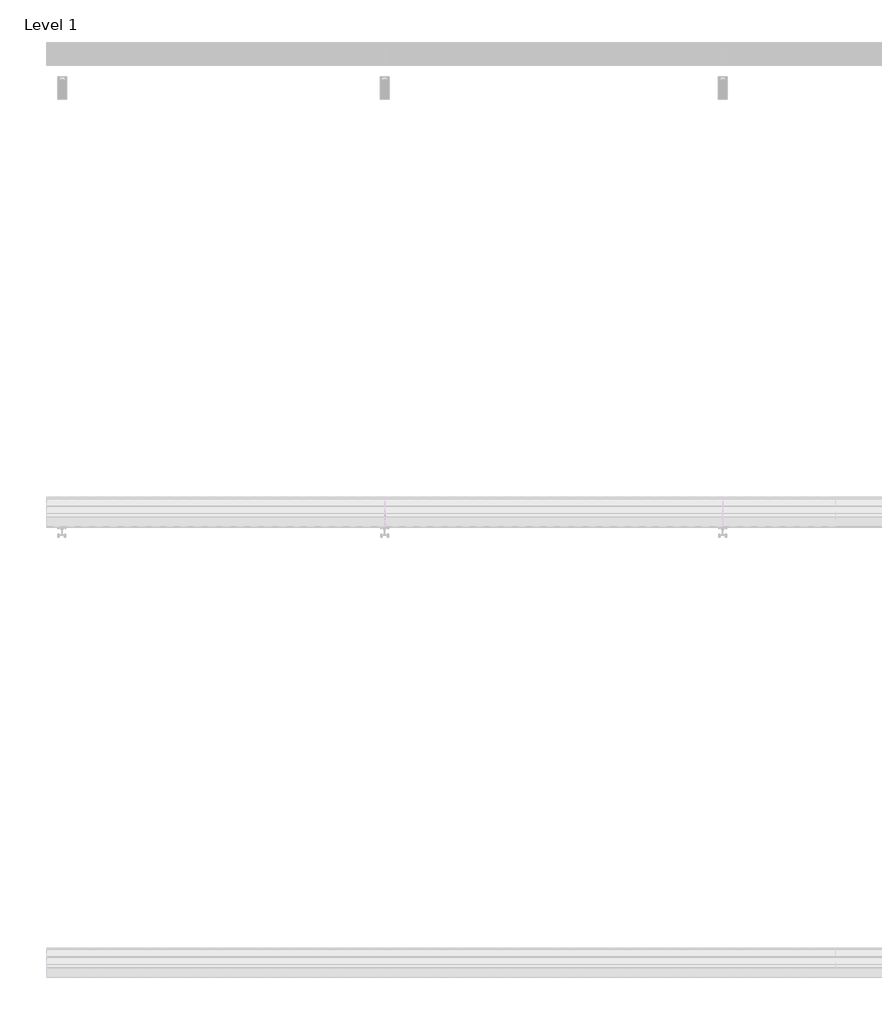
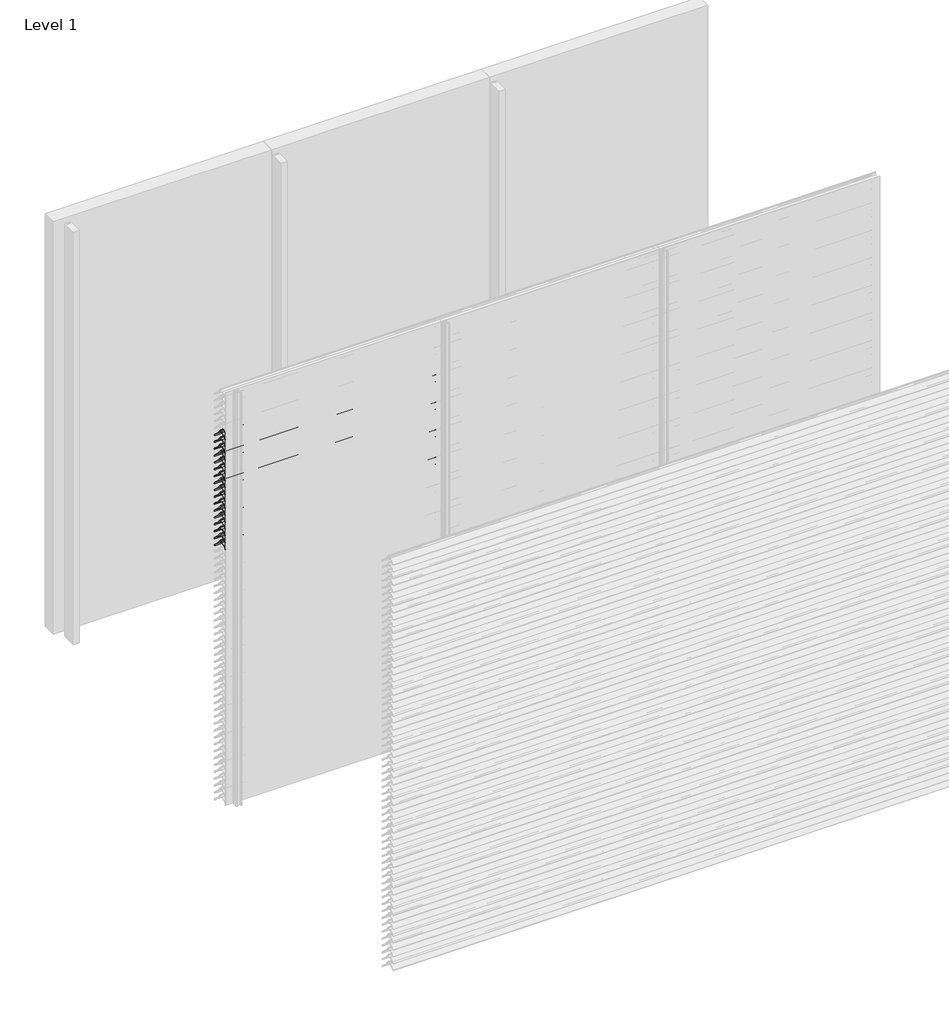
# One storey, part 41 of 173: 17 proxies.
"""IFC4 building model written with IfcOpenShell, lengths in millimetres."""

import ifcopenshell
import ifcopenshell.guid

model = None  # the IFC model being written
_history = None  # IfcOwnerHistory: only IFC2X3 demands one
_inside = {}  # id of a spatial element -> (the spatial element, [elements in it])
_under = {}  # id of a project, library or spatial element -> (it, [spatial elements below it])
_declared = {}  # id of a project -> (the project, [libraries it declares])
_typed = {}  # id of a type object -> (the type object, [elements of that type])
_made_of = {}  # id of a material, layer set ... -> (it, [elements and type objects made of it])


def new_model(schema):
    """Start an empty IFC model of exactly this schema.

    Asked for "IFC4X3", IfcOpenShell would pick the latest addendum, in which some entities
    have other attributes; the version numbers below select the first issue.
    IFC2X3 requires an IfcOwnerHistory on every rooted entity: one is made here for all.
    """
    global model, _history
    if schema == "IFC4X3":
        model = ifcopenshell.file(schema_version=(4, 3, 0, 0))
    else:
        model = ifcopenshell.file(schema=schema)
    _inside.clear()
    _under.clear()
    _declared.clear()
    _typed.clear()
    _made_of.clear()
    _history = None
    if model.schema == "IFC2X3":
        org = make("IfcOrganization", Name="unknown")
        user = make(
            "IfcPersonAndOrganization",
            ThePerson=make("IfcPerson", FamilyName="unknown"),
            TheOrganization=org,
        )
        app = make(
            "IfcApplication",
            ApplicationDeveloper=org,
            Version="unknown",
            ApplicationFullName="unknown",
            ApplicationIdentifier="unknown",
        )
        _history = make(
            "IfcOwnerHistory",
            OwningUser=user,
            OwningApplication=app,
            ChangeAction="ADDED",
            CreationDate=0,
        )
    return model


def make(cls, **values):
    """One entity of the class cls with the attributes given. An attribute that is None is left unset."""
    return model.create_entity(
        cls, **{name: value for name, value in values.items() if value is not None}
    )


def rooted(cls, **values):
    """An entity with a GlobalId (a new one), such as an element, a storey or a relation."""
    return make(cls, GlobalId=ifcopenshell.guid.new(), OwnerHistory=_history, **values)


def si_unit(unit_type, name, prefix=None):
    """IfcSIUnit, for example si_unit("LENGTHUNIT", "METRE", prefix="MILLI")."""
    return make("IfcSIUnit", UnitType=unit_type, Prefix=prefix, Name=name)


def assignment(units):
    """IfcUnitAssignment: the units of a project."""
    return None if units is None else make("IfcUnitAssignment", Units=units)


def point(xyz):
    """IfcCartesianPoint."""
    return None if xyz is None else make("IfcCartesianPoint", Coordinates=xyz)


def direction(xyz):
    """IfcDirection."""
    return None if xyz is None else make("IfcDirection", DirectionRatios=xyz)


def frame(location, z_axis=None, x_axis=None):
    """IfcAxis2Placement3D, a coordinate frame: its origin and axes. An axis left out is left unset."""
    return make(
        "IfcAxis2Placement3D",
        Location=point(location),
        Axis=direction(z_axis),
        RefDirection=direction(x_axis),
    )


def frame_2d(location, x_axis=None):
    """IfcAxis2Placement2D, a coordinate frame in the plane: its origin and x axis."""
    return make(
        "IfcAxis2Placement2D", Location=point(location), RefDirection=direction(x_axis)
    )


def origin():
    """The frame at (0, 0, 0) with its axes left unset."""
    return frame((0.0, 0.0, 0.0))


def place(relative_to, where):
    """IfcLocalPlacement: puts the frame where relative to a parent placement (None: the world)."""
    return make(
        "IfcLocalPlacement", PlacementRelTo=relative_to, RelativePlacement=where
    )


def context(
    kind, dimensions, precision=None, world=None, true_north=None, identifier=None
):
    """IfcGeometricRepresentationContext, for example the 3D "Model" context."""
    return make(
        "IfcGeometricRepresentationContext",
        ContextIdentifier=identifier,
        ContextType=kind,
        CoordinateSpaceDimension=dimensions,
        Precision=precision,
        WorldCoordinateSystem=world,
        TrueNorth=true_north,
    )


def project(units=None, contexts=None):
    """IfcProject with its units and contexts."""
    return rooted(
        "IfcProject",
        Name="project",
        RepresentationContexts=contexts,
        UnitsInContext=assignment(units),
    )


def spatial(cls, under=None, at=None, **own):
    """A site, building, storey or space (cls), placed at a placement, below another one or the project."""
    s = rooted(cls, ObjectPlacement=at, **own)
    if under is not None:
        _under.setdefault(under.id(), (under, []))[1].append(s)
    return s


def polyline(points):
    """IfcPolyline through the points."""
    return make("IfcPolyline", Points=[point(p) for p in points])


def circle_curve(where, radius):
    """IfcCircle in the frame where."""
    return make("IfcCircle", Position=where, Radius=radius)


def trimmed(basis, trim1, trim2, sense, master):
    """IfcTrimmedCurve: the piece of a basis curve between two trims."""
    return make(
        "IfcTrimmedCurve",
        BasisCurve=basis,
        Trim1=trim1,
        Trim2=trim2,
        SenseAgreement=sense,
        MasterRepresentation=master,
    )


def segment(curve, same_sense, transition):
    """IfcCompositeCurveSegment."""
    return make(
        "IfcCompositeCurveSegment",
        Transition=transition,
        SameSense=same_sense,
        ParentCurve=curve,
    )


def composite_curve(segments, self_intersect=None):
    """IfcCompositeCurve: segments joined end to end."""
    return make("IfcCompositeCurve", Segments=segments, SelfIntersect=self_intersect)


def outline(outer, holes=None, kind="AREA"):
    """IfcArbitraryClosedProfileDef: a profile drawn as a closed curve; with holes, ...WithVoids."""
    if holes is None:
        return make("IfcArbitraryClosedProfileDef", ProfileType=kind, OuterCurve=outer)
    return make(
        "IfcArbitraryProfileDefWithVoids",
        ProfileType=kind,
        OuterCurve=outer,
        InnerCurves=holes,
    )


def extrude(swept, where, along, depth):
    """IfcExtrudedAreaSolid: the profile swept, set in the frame where, extruded along a direction by depth."""
    return make(
        "IfcExtrudedAreaSolid",
        SweptArea=swept,
        Position=where,
        ExtrudedDirection=direction(along),
        Depth=depth,
    )


def shape(context_of_items, identifier, shape_type, items):
    """IfcShapeRepresentation: the items that make up one representation, for example the "Body"."""
    return make(
        "IfcShapeRepresentation",
        ContextOfItems=context_of_items,
        RepresentationIdentifier=identifier,
        RepresentationType=shape_type,
        Items=items,
    )


def made_of(thing, what):
    """Note that an element or type object is made of a material, layer set ...; save() writes the relation."""
    if what is not None:
        _made_of.setdefault(what.id(), (what, []))[1].append(thing)
    return thing


def element(
    cls,
    number,
    at=None,
    inside=None,
    cuts=None,
    type_object=None,
    material=None,
    context=None,
    identifier="Body",
    shape_type=None,
    held_by="IfcProductDefinitionShape",
    body=None,
    shapes=None,
    **own,
):
    """One element of the class cls, such as IfcWall. Its Tag is "e" and its number.

    at: its placement. inside: the storey or other place that contains it. cuts: it is an
    opening in that element (IfcRelVoidsElement). A single representation is given by context,
    identifier, shape_type and body (its items); several are given by shapes. held_by: the class
    of the entity that holds the representations. save() writes the other relations.
    """
    e = rooted(cls, Tag="e%d" % number, ObjectPlacement=at, **own)
    if body is not None:
        shapes = [shape(context, identifier, shape_type, body)]
    if shapes is not None:
        e.Representation = make(held_by, Representations=shapes)
    if inside is not None:
        _inside.setdefault(inside.id(), (inside, []))[1].append(e)
    if cuts is not None:
        rooted(
            "IfcRelVoidsElement", RelatingBuildingElement=cuts, RelatedOpeningElement=e
        )
    if type_object is not None:
        _typed.setdefault(type_object.id(), (type_object, []))[1].append(e)
    return made_of(e, material)


def aggregate(whole, parts):
    """IfcRelAggregates: a whole, such as a stair, and the parts it consists of."""
    return rooted("IfcRelAggregates", RelatingObject=whole, RelatedObjects=parts)


def save(model, path):
    """Write the relations noted so far, then the file.

    IfcRelAggregates (storeys below a building ...), IfcRelContainedInSpatialStructure (elements
    in a storey), IfcRelDefinesByType, IfcRelAssociatesMaterial and IfcRelDeclares: one each for
    every whole, place, type object, material and project.
    """
    for whole, parts in _under.values():
        aggregate(whole, parts)
    for where, things in _inside.values():
        rooted(
            "IfcRelContainedInSpatialStructure",
            RelatedElements=things,
            RelatingStructure=where,
        )
    for kind, things in _typed.values():
        rooted("IfcRelDefinesByType", RelatedObjects=things, RelatingType=kind)
    for what, things in _made_of.values():
        rooted("IfcRelAssociatesMaterial", RelatedObjects=things, RelatingMaterial=what)
    for by, libraries in _declared.values():
        rooted("IfcRelDeclares", RelatingContext=by, RelatedDefinitions=libraries)
    model.write(path)


model = new_model("IFC4")

# Units and contexts
model_context = context("Model", 3, world=origin())
ifc_project = project(units=[si_unit("LENGTHUNIT", "METRE", prefix="MILLI")], contexts=[model_context])

# Site, building, storey
site = spatial("IfcSite", under=ifc_project)
building = spatial("IfcBuilding", under=site)
storey = spatial("IfcBuildingStorey", under=building, Name="Level 1", Elevation=0.0)

# Proxies
placement = place(None, origin())
element("IfcBuildingElementProxy", 1, Name="Wall Sweeps", at=placement, inside=storey, context=model_context, shape_type="SweptSolid", body=[
    extrude(outline(composite_curve([segment(polyline([(-41998.0, 2659.1474905), (-41998.0, 2661.6227417)]), True, "CONTINUOUS"), segment(trimmed(circle_curve(frame_2d((-41951.2682172, 2616.2200208)), 65.1557103), [point((-41998.0, 2661.6227417))], [point((-41954.4014323, 2681.3003524))], False, "CARTESIAN"), True, "CONTINUOUS"), segment(polyline([(-41954.4014323, 2681.3003524), (-41934.8315836, 2681.3003524)]), True, "CONTINUOUS"), segment(trimmed(circle_curve(frame_2d((-41732.7329489, 2828.5533172)), 250.0545817), [point((-41934.8315836, 2681.3003524))], [point((-41941.4452143, 2690.8344583))], False, "CARTESIAN"), True, "CONTINUOUS"), segment(trimmed(circle_curve(frame_2d((-41953.2981792, 2685.1737835)), 13.1352966), [point((-41941.4452143, 2690.8344583))], [point((-41953.8171475, 2698.298824))], True, "CARTESIAN"), True, "CONTINUOUS"), segment(polyline([(-41953.8171475, 2698.298824), (-41953.8171475, 2700.0)]), True, "CONTINUOUS"), segment(trimmed(circle_curve(frame_2d((-41953.2981792, 2685.1737835)), 14.8352966), [point((-41953.8171475, 2700.0))], [point((-41939.9637661, 2691.6760487))], False, "CARTESIAN"), True, "CONTINUOUS"), segment(trimmed(circle_curve(frame_2d((-41732.7329489, 2828.5533172)), 248.3545817), [point((-41939.9637661, 2691.6760487))], [point((-41873.8787895, 2624.2059416))], True, "CARTESIAN"), True, "CONTINUOUS"), segment(trimmed(circle_curve(frame_2d((-41883.8147537, 2611.6649442)), 16.0), [point((-41873.8787895, 2624.2059416))], [point((-41867.8648347, 2610.4))], False, "CARTESIAN"), True, "CONTINUOUS"), segment(polyline([(-41867.8648347, 2610.4), (-41869.6712069, 2610.4)]), True, "CONTINUOUS"), segment(trimmed(circle_curve(frame_2d((-41883.8147537, 2611.6649442)), 14.2), [point((-41869.6712069, 2610.4))], [point((-41874.9518628, 2622.7594998))], True, "CARTESIAN"), True, "CONTINUOUS"), segment(trimmed(circle_curve(frame_2d((-41732.7329489, 2828.5533172)), 250.1545817), [point((-41874.9518628, 2622.7594998))], [point((-41933.7064024, 2679.6003524))], False, "CARTESIAN"), True, "CONTINUOUS"), segment(polyline([(-41933.7064024, 2679.6003524), (-41954.3602632, 2679.6003524)]), True, "CONTINUOUS"), segment(trimmed(circle_curve(frame_2d((-41951.2682172, 2616.2200208)), 63.4557103), [point((-41954.3602632, 2679.6003524))], [point((-41998.0, 2659.1474905))], True, "CARTESIAN"), True, "CONTINUOUS")], self_intersect=False)), frame((0.0, 0.0, 0.0), z_axis=(1.0, 0.0, 0.0), x_axis=(0.0, 1.0, 0.0)), (0.0, 0.0, 1.0), 1500.0),
])
element("IfcBuildingElementProxy", 2, Name="Wall Sweeps", at=placement, inside=storey, context=model_context, shape_type="SweptSolid", body=[
    extrude(outline(composite_curve([segment(polyline([(-41998.0, 2609.1474905), (-41998.0, 2611.6227417)]), True, "CONTINUOUS"), segment(trimmed(circle_curve(frame_2d((-41951.2682172, 2566.2200208)), 65.1557103), [point((-41998.0, 2611.6227417))], [point((-41954.4014323, 2631.3003524))], False, "CARTESIAN"), True, "CONTINUOUS"), segment(polyline([(-41954.4014323, 2631.3003524), (-41934.8315836, 2631.3003524)]), True, "CONTINUOUS"), segment(trimmed(circle_curve(frame_2d((-41732.7329489, 2778.5533172)), 250.0545817), [point((-41934.8315836, 2631.3003524))], [point((-41941.4452143, 2640.8344583))], False, "CARTESIAN"), True, "CONTINUOUS"), segment(trimmed(circle_curve(frame_2d((-41953.2981792, 2635.1737835)), 13.1352966), [point((-41941.4452143, 2640.8344583))], [point((-41953.8171475, 2648.298824))], True, "CARTESIAN"), True, "CONTINUOUS"), segment(polyline([(-41953.8171475, 2648.298824), (-41953.8171475, 2650.0)]), True, "CONTINUOUS"), segment(trimmed(circle_curve(frame_2d((-41953.2981792, 2635.1737835)), 14.8352966), [point((-41953.8171475, 2650.0))], [point((-41939.9637661, 2641.6760487))], False, "CARTESIAN"), True, "CONTINUOUS"), segment(trimmed(circle_curve(frame_2d((-41732.7329489, 2778.5533172)), 248.3545817), [point((-41939.9637661, 2641.6760487))], [point((-41873.8787895, 2574.2059416))], True, "CARTESIAN"), True, "CONTINUOUS"), segment(trimmed(circle_curve(frame_2d((-41883.8147537, 2561.6649442)), 16.0), [point((-41873.8787895, 2574.2059416))], [point((-41867.8648347, 2560.4))], False, "CARTESIAN"), True, "CONTINUOUS"), segment(polyline([(-41867.8648347, 2560.4), (-41869.6712069, 2560.4)]), True, "CONTINUOUS"), segment(trimmed(circle_curve(frame_2d((-41883.8147537, 2561.6649442)), 14.2), [point((-41869.6712069, 2560.4))], [point((-41874.9518628, 2572.7594998))], True, "CARTESIAN"), True, "CONTINUOUS"), segment(trimmed(circle_curve(frame_2d((-41732.7329489, 2778.5533172)), 250.1545817), [point((-41874.9518628, 2572.7594998))], [point((-41933.7064024, 2629.6003524))], False, "CARTESIAN"), True, "CONTINUOUS"), segment(polyline([(-41933.7064024, 2629.6003524), (-41954.3602632, 2629.6003524)]), True, "CONTINUOUS"), segment(trimmed(circle_curve(frame_2d((-41951.2682172, 2566.2200208)), 63.4557103), [point((-41954.3602632, 2629.6003524))], [point((-41998.0, 2609.1474905))], True, "CARTESIAN"), True, "CONTINUOUS")], self_intersect=False)), frame((0.0, 0.0, 0.0), z_axis=(1.0, 0.0, 0.0), x_axis=(0.0, 1.0, 0.0)), (0.0, 0.0, 1.0), 1500.0),
])
element("IfcBuildingElementProxy", 3, Name="Wall Sweeps", at=placement, inside=storey, context=model_context, shape_type="SweptSolid", body=[
    extrude(outline(composite_curve([segment(polyline([(-41998.0, 2559.1474905), (-41998.0, 2561.6227417)]), True, "CONTINUOUS"), segment(trimmed(circle_curve(frame_2d((-41951.2682172, 2516.2200208)), 65.1557103), [point((-41998.0, 2561.6227417))], [point((-41954.4014323, 2581.3003524))], False, "CARTESIAN"), True, "CONTINUOUS"), segment(polyline([(-41954.4014323, 2581.3003524), (-41934.8315836, 2581.3003524)]), True, "CONTINUOUS"), segment(trimmed(circle_curve(frame_2d((-41732.7329489, 2728.5533172)), 250.0545817), [point((-41934.8315836, 2581.3003524))], [point((-41941.4452143, 2590.8344583))], False, "CARTESIAN"), True, "CONTINUOUS"), segment(trimmed(circle_curve(frame_2d((-41953.2981792, 2585.1737835)), 13.1352966), [point((-41941.4452143, 2590.8344583))], [point((-41953.8171475, 2598.298824))], True, "CARTESIAN"), True, "CONTINUOUS"), segment(polyline([(-41953.8171475, 2598.298824), (-41953.8171475, 2600.0)]), True, "CONTINUOUS"), segment(trimmed(circle_curve(frame_2d((-41953.2981792, 2585.1737835)), 14.8352966), [point((-41953.8171475, 2600.0))], [point((-41939.9637661, 2591.6760487))], False, "CARTESIAN"), True, "CONTINUOUS"), segment(trimmed(circle_curve(frame_2d((-41732.7329489, 2728.5533172)), 248.3545817), [point((-41939.9637661, 2591.6760487))], [point((-41873.8787895, 2524.2059416))], True, "CARTESIAN"), True, "CONTINUOUS"), segment(trimmed(circle_curve(frame_2d((-41883.8147537, 2511.6649442)), 16.0), [point((-41873.8787895, 2524.2059416))], [point((-41867.8648347, 2510.4))], False, "CARTESIAN"), True, "CONTINUOUS"), segment(polyline([(-41867.8648347, 2510.4), (-41869.6712069, 2510.4)]), True, "CONTINUOUS"), segment(trimmed(circle_curve(frame_2d((-41883.8147537, 2511.6649442)), 14.2), [point((-41869.6712069, 2510.4))], [point((-41874.9518628, 2522.7594998))], True, "CARTESIAN"), True, "CONTINUOUS"), segment(trimmed(circle_curve(frame_2d((-41732.7329489, 2728.5533172)), 250.1545817), [point((-41874.9518628, 2522.7594998))], [point((-41933.7064024, 2579.6003524))], False, "CARTESIAN"), True, "CONTINUOUS"), segment(polyline([(-41933.7064024, 2579.6003524), (-41954.3602632, 2579.6003524)]), True, "CONTINUOUS"), segment(trimmed(circle_curve(frame_2d((-41951.2682172, 2516.2200208)), 63.4557103), [point((-41954.3602632, 2579.6003524))], [point((-41998.0, 2559.1474905))], True, "CARTESIAN"), True, "CONTINUOUS")], self_intersect=False)), frame((0.0, 0.0, 0.0), z_axis=(1.0, 0.0, 0.0), x_axis=(0.0, 1.0, 0.0)), (0.0, 0.0, 1.0), 1500.0),
])
element("IfcBuildingElementProxy", 4, Name="Wall Sweeps", at=placement, inside=storey, context=model_context, shape_type="SweptSolid", body=[
    extrude(outline(composite_curve([segment(polyline([(-41998.0, 2509.1474905), (-41998.0, 2511.6227417)]), True, "CONTINUOUS"), segment(trimmed(circle_curve(frame_2d((-41951.2682172, 2466.2200208)), 65.1557103), [point((-41998.0, 2511.6227417))], [point((-41954.4014323, 2531.3003524))], False, "CARTESIAN"), True, "CONTINUOUS"), segment(polyline([(-41954.4014323, 2531.3003524), (-41934.8315836, 2531.3003524)]), True, "CONTINUOUS"), segment(trimmed(circle_curve(frame_2d((-41732.7329489, 2678.5533172)), 250.0545817), [point((-41934.8315836, 2531.3003524))], [point((-41941.4452143, 2540.8344583))], False, "CARTESIAN"), True, "CONTINUOUS"), segment(trimmed(circle_curve(frame_2d((-41953.2981792, 2535.1737835)), 13.1352966), [point((-41941.4452143, 2540.8344583))], [point((-41953.8171475, 2548.298824))], True, "CARTESIAN"), True, "CONTINUOUS"), segment(polyline([(-41953.8171475, 2548.298824), (-41953.8171475, 2550.0)]), True, "CONTINUOUS"), segment(trimmed(circle_curve(frame_2d((-41953.2981792, 2535.1737835)), 14.8352966), [point((-41953.8171475, 2550.0))], [point((-41939.9637661, 2541.6760487))], False, "CARTESIAN"), True, "CONTINUOUS"), segment(trimmed(circle_curve(frame_2d((-41732.7329489, 2678.5533172)), 248.3545817), [point((-41939.9637661, 2541.6760487))], [point((-41873.8787895, 2474.2059416))], True, "CARTESIAN"), True, "CONTINUOUS"), segment(trimmed(circle_curve(frame_2d((-41883.8147537, 2461.6649442)), 16.0), [point((-41873.8787895, 2474.2059416))], [point((-41867.8648347, 2460.4))], False, "CARTESIAN"), True, "CONTINUOUS"), segment(polyline([(-41867.8648347, 2460.4), (-41869.6712069, 2460.4)]), True, "CONTINUOUS"), segment(trimmed(circle_curve(frame_2d((-41883.8147537, 2461.6649442)), 14.2), [point((-41869.6712069, 2460.4))], [point((-41874.9518628, 2472.7594998))], True, "CARTESIAN"), True, "CONTINUOUS"), segment(trimmed(circle_curve(frame_2d((-41732.7329489, 2678.5533172)), 250.1545817), [point((-41874.9518628, 2472.7594998))], [point((-41933.7064024, 2529.6003524))], False, "CARTESIAN"), True, "CONTINUOUS"), segment(polyline([(-41933.7064024, 2529.6003524), (-41954.3602632, 2529.6003524)]), True, "CONTINUOUS"), segment(trimmed(circle_curve(frame_2d((-41951.2682172, 2466.2200208)), 63.4557103), [point((-41954.3602632, 2529.6003524))], [point((-41998.0, 2509.1474905))], True, "CARTESIAN"), True, "CONTINUOUS")], self_intersect=False)), frame((0.0, 0.0, 0.0), z_axis=(1.0, 0.0, 0.0), x_axis=(0.0, 1.0, 0.0)), (0.0, 0.0, 1.0), 1500.0),
])
element("IfcBuildingElementProxy", 5, Name="Wall Sweeps", at=placement, inside=storey, context=model_context, shape_type="SweptSolid", body=[
    extrude(outline(composite_curve([segment(polyline([(-41998.0, 2459.1474905), (-41998.0, 2461.6227417)]), True, "CONTINUOUS"), segment(trimmed(circle_curve(frame_2d((-41951.2682172, 2416.2200208)), 65.1557103), [point((-41998.0, 2461.6227417))], [point((-41954.4014323, 2481.3003524))], False, "CARTESIAN"), True, "CONTINUOUS"), segment(polyline([(-41954.4014323, 2481.3003524), (-41934.8315836, 2481.3003524)]), True, "CONTINUOUS"), segment(trimmed(circle_curve(frame_2d((-41732.7329489, 2628.5533172)), 250.0545817), [point((-41934.8315836, 2481.3003524))], [point((-41941.4452143, 2490.8344583))], False, "CARTESIAN"), True, "CONTINUOUS"), segment(trimmed(circle_curve(frame_2d((-41953.2981792, 2485.1737835)), 13.1352966), [point((-41941.4452143, 2490.8344583))], [point((-41953.8171475, 2498.298824))], True, "CARTESIAN"), True, "CONTINUOUS"), segment(polyline([(-41953.8171475, 2498.298824), (-41953.8171475, 2500.0)]), True, "CONTINUOUS"), segment(trimmed(circle_curve(frame_2d((-41953.2981792, 2485.1737835)), 14.8352966), [point((-41953.8171475, 2500.0))], [point((-41939.9637661, 2491.6760487))], False, "CARTESIAN"), True, "CONTINUOUS"), segment(trimmed(circle_curve(frame_2d((-41732.7329489, 2628.5533172)), 248.3545817), [point((-41939.9637661, 2491.6760487))], [point((-41873.8787895, 2424.2059416))], True, "CARTESIAN"), True, "CONTINUOUS"), segment(trimmed(circle_curve(frame_2d((-41883.8147537, 2411.6649442)), 16.0), [point((-41873.8787895, 2424.2059416))], [point((-41867.8648347, 2410.4))], False, "CARTESIAN"), True, "CONTINUOUS"), segment(polyline([(-41867.8648347, 2410.4), (-41869.6712069, 2410.4)]), True, "CONTINUOUS"), segment(trimmed(circle_curve(frame_2d((-41883.8147537, 2411.6649442)), 14.2), [point((-41869.6712069, 2410.4))], [point((-41874.9518628, 2422.7594998))], True, "CARTESIAN"), True, "CONTINUOUS"), segment(trimmed(circle_curve(frame_2d((-41732.7329489, 2628.5533172)), 250.1545817), [point((-41874.9518628, 2422.7594998))], [point((-41933.7064024, 2479.6003524))], False, "CARTESIAN"), True, "CONTINUOUS"), segment(polyline([(-41933.7064024, 2479.6003524), (-41954.3602632, 2479.6003524)]), True, "CONTINUOUS"), segment(trimmed(circle_curve(frame_2d((-41951.2682172, 2416.2200208)), 63.4557103), [point((-41954.3602632, 2479.6003524))], [point((-41998.0, 2459.1474905))], True, "CARTESIAN"), True, "CONTINUOUS")], self_intersect=False)), frame((0.0, 0.0, 0.0), z_axis=(1.0, 0.0, 0.0), x_axis=(0.0, 1.0, 0.0)), (0.0, 0.0, 1.0), 1500.0),
])
element("IfcBuildingElementProxy", 6, Name="Wall Sweeps", at=placement, inside=storey, context=model_context, shape_type="SweptSolid", body=[
    extrude(outline(composite_curve([segment(polyline([(-41998.0, 2409.1474905), (-41998.0, 2411.6227417)]), True, "CONTINUOUS"), segment(trimmed(circle_curve(frame_2d((-41951.2682172, 2366.2200208)), 65.1557103), [point((-41998.0, 2411.6227417))], [point((-41954.4014323, 2431.3003524))], False, "CARTESIAN"), True, "CONTINUOUS"), segment(polyline([(-41954.4014323, 2431.3003524), (-41934.8315836, 2431.3003524)]), True, "CONTINUOUS"), segment(trimmed(circle_curve(frame_2d((-41732.7329489, 2578.5533172)), 250.0545817), [point((-41934.8315836, 2431.3003524))], [point((-41941.4452143, 2440.8344583))], False, "CARTESIAN"), True, "CONTINUOUS"), segment(trimmed(circle_curve(frame_2d((-41953.2981792, 2435.1737835)), 13.1352966), [point((-41941.4452143, 2440.8344583))], [point((-41953.8171475, 2448.298824))], True, "CARTESIAN"), True, "CONTINUOUS"), segment(polyline([(-41953.8171475, 2448.298824), (-41953.8171475, 2450.0)]), True, "CONTINUOUS"), segment(trimmed(circle_curve(frame_2d((-41953.2981792, 2435.1737835)), 14.8352966), [point((-41953.8171475, 2450.0))], [point((-41939.9637661, 2441.6760487))], False, "CARTESIAN"), True, "CONTINUOUS"), segment(trimmed(circle_curve(frame_2d((-41732.7329489, 2578.5533172)), 248.3545817), [point((-41939.9637661, 2441.6760487))], [point((-41873.8787895, 2374.2059416))], True, "CARTESIAN"), True, "CONTINUOUS"), segment(trimmed(circle_curve(frame_2d((-41883.8147537, 2361.6649442)), 16.0), [point((-41873.8787895, 2374.2059416))], [point((-41867.8648347, 2360.4))], False, "CARTESIAN"), True, "CONTINUOUS"), segment(polyline([(-41867.8648347, 2360.4), (-41869.6712069, 2360.4)]), True, "CONTINUOUS"), segment(trimmed(circle_curve(frame_2d((-41883.8147537, 2361.6649442)), 14.2), [point((-41869.6712069, 2360.4))], [point((-41874.9518628, 2372.7594998))], True, "CARTESIAN"), True, "CONTINUOUS"), segment(trimmed(circle_curve(frame_2d((-41732.7329489, 2578.5533172)), 250.1545817), [point((-41874.9518628, 2372.7594998))], [point((-41933.7064024, 2429.6003524))], False, "CARTESIAN"), True, "CONTINUOUS"), segment(polyline([(-41933.7064024, 2429.6003524), (-41954.3602632, 2429.6003524)]), True, "CONTINUOUS"), segment(trimmed(circle_curve(frame_2d((-41951.2682172, 2366.2200208)), 63.4557103), [point((-41954.3602632, 2429.6003524))], [point((-41998.0, 2409.1474905))], True, "CARTESIAN"), True, "CONTINUOUS")], self_intersect=False)), frame((0.0, 0.0, 0.0), z_axis=(1.0, 0.0, 0.0), x_axis=(0.0, 1.0, 0.0)), (0.0, 0.0, 1.0), 1500.0),
])
element("IfcBuildingElementProxy", 7, Name="Wall Sweeps", at=placement, inside=storey, context=model_context, shape_type="SweptSolid", body=[
    extrude(outline(composite_curve([segment(polyline([(-41998.0, 2359.1474905), (-41998.0, 2361.6227417)]), True, "CONTINUOUS"), segment(trimmed(circle_curve(frame_2d((-41951.2682172, 2316.2200208)), 65.1557103), [point((-41998.0, 2361.6227417))], [point((-41954.4014323, 2381.3003524))], False, "CARTESIAN"), True, "CONTINUOUS"), segment(polyline([(-41954.4014323, 2381.3003524), (-41934.8315836, 2381.3003524)]), True, "CONTINUOUS"), segment(trimmed(circle_curve(frame_2d((-41732.7329489, 2528.5533172)), 250.0545817), [point((-41934.8315836, 2381.3003524))], [point((-41941.4452143, 2390.8344583))], False, "CARTESIAN"), True, "CONTINUOUS"), segment(trimmed(circle_curve(frame_2d((-41953.2981792, 2385.1737835)), 13.1352966), [point((-41941.4452143, 2390.8344583))], [point((-41953.8171475, 2398.298824))], True, "CARTESIAN"), True, "CONTINUOUS"), segment(polyline([(-41953.8171475, 2398.298824), (-41953.8171475, 2400.0)]), True, "CONTINUOUS"), segment(trimmed(circle_curve(frame_2d((-41953.2981792, 2385.1737835)), 14.8352966), [point((-41953.8171475, 2400.0))], [point((-41939.9637661, 2391.6760487))], False, "CARTESIAN"), True, "CONTINUOUS"), segment(trimmed(circle_curve(frame_2d((-41732.7329489, 2528.5533172)), 248.3545817), [point((-41939.9637661, 2391.6760487))], [point((-41873.8787895, 2324.2059416))], True, "CARTESIAN"), True, "CONTINUOUS"), segment(trimmed(circle_curve(frame_2d((-41883.8147537, 2311.6649442)), 16.0), [point((-41873.8787895, 2324.2059416))], [point((-41867.8648347, 2310.4))], False, "CARTESIAN"), True, "CONTINUOUS"), segment(polyline([(-41867.8648347, 2310.4), (-41869.6712069, 2310.4)]), True, "CONTINUOUS"), segment(trimmed(circle_curve(frame_2d((-41883.8147537, 2311.6649442)), 14.2), [point((-41869.6712069, 2310.4))], [point((-41874.9518628, 2322.7594998))], True, "CARTESIAN"), True, "CONTINUOUS"), segment(trimmed(circle_curve(frame_2d((-41732.7329489, 2528.5533172)), 250.1545817), [point((-41874.9518628, 2322.7594998))], [point((-41933.7064024, 2379.6003524))], False, "CARTESIAN"), True, "CONTINUOUS"), segment(polyline([(-41933.7064024, 2379.6003524), (-41954.3602632, 2379.6003524)]), True, "CONTINUOUS"), segment(trimmed(circle_curve(frame_2d((-41951.2682172, 2316.2200208)), 63.4557103), [point((-41954.3602632, 2379.6003524))], [point((-41998.0, 2359.1474905))], True, "CARTESIAN"), True, "CONTINUOUS")], self_intersect=False)), frame((0.0, 0.0, 0.0), z_axis=(1.0, 0.0, 0.0), x_axis=(0.0, 1.0, 0.0)), (0.0, 0.0, 1.0), 1500.0),
])
element("IfcBuildingElementProxy", 8, Name="Wall Sweeps", at=placement, inside=storey, context=model_context, shape_type="SweptSolid", body=[
    extrude(outline(composite_curve([segment(polyline([(-41998.0, 2309.1474905), (-41998.0, 2311.6227417)]), True, "CONTINUOUS"), segment(trimmed(circle_curve(frame_2d((-41951.2682172, 2266.2200208)), 65.1557103), [point((-41998.0, 2311.6227417))], [point((-41954.4014323, 2331.3003524))], False, "CARTESIAN"), True, "CONTINUOUS"), segment(polyline([(-41954.4014323, 2331.3003524), (-41934.8315836, 2331.3003524)]), True, "CONTINUOUS"), segment(trimmed(circle_curve(frame_2d((-41732.7329489, 2478.5533172)), 250.0545817), [point((-41934.8315836, 2331.3003524))], [point((-41941.4452143, 2340.8344583))], False, "CARTESIAN"), True, "CONTINUOUS"), segment(trimmed(circle_curve(frame_2d((-41953.2981792, 2335.1737835)), 13.1352966), [point((-41941.4452143, 2340.8344583))], [point((-41953.8171475, 2348.298824))], True, "CARTESIAN"), True, "CONTINUOUS"), segment(polyline([(-41953.8171475, 2348.298824), (-41953.8171475, 2350.0)]), True, "CONTINUOUS"), segment(trimmed(circle_curve(frame_2d((-41953.2981792, 2335.1737835)), 14.8352966), [point((-41953.8171475, 2350.0))], [point((-41939.9637661, 2341.6760487))], False, "CARTESIAN"), True, "CONTINUOUS"), segment(trimmed(circle_curve(frame_2d((-41732.7329489, 2478.5533172)), 248.3545817), [point((-41939.9637661, 2341.6760487))], [point((-41873.8787895, 2274.2059416))], True, "CARTESIAN"), True, "CONTINUOUS"), segment(trimmed(circle_curve(frame_2d((-41883.8147537, 2261.6649442)), 16.0), [point((-41873.8787895, 2274.2059416))], [point((-41867.8648347, 2260.4))], False, "CARTESIAN"), True, "CONTINUOUS"), segment(polyline([(-41867.8648347, 2260.4), (-41869.6712069, 2260.4)]), True, "CONTINUOUS"), segment(trimmed(circle_curve(frame_2d((-41883.8147537, 2261.6649442)), 14.2), [point((-41869.6712069, 2260.4))], [point((-41874.9518628, 2272.7594998))], True, "CARTESIAN"), True, "CONTINUOUS"), segment(trimmed(circle_curve(frame_2d((-41732.7329489, 2478.5533172)), 250.1545817), [point((-41874.9518628, 2272.7594998))], [point((-41933.7064024, 2329.6003524))], False, "CARTESIAN"), True, "CONTINUOUS"), segment(polyline([(-41933.7064024, 2329.6003524), (-41954.3602632, 2329.6003524)]), True, "CONTINUOUS"), segment(trimmed(circle_curve(frame_2d((-41951.2682172, 2266.2200208)), 63.4557103), [point((-41954.3602632, 2329.6003524))], [point((-41998.0, 2309.1474905))], True, "CARTESIAN"), True, "CONTINUOUS")], self_intersect=False)), frame((0.0, 0.0, 0.0), z_axis=(1.0, 0.0, 0.0), x_axis=(0.0, 1.0, 0.0)), (0.0, 0.0, 1.0), 1500.0),
])
element("IfcBuildingElementProxy", 9, Name="Wall Sweeps", at=placement, inside=storey, context=model_context, shape_type="SweptSolid", body=[
    extrude(outline(composite_curve([segment(polyline([(-41998.0, 2259.1474905), (-41998.0, 2261.6227417)]), True, "CONTINUOUS"), segment(trimmed(circle_curve(frame_2d((-41951.2682172, 2216.2200208)), 65.1557103), [point((-41998.0, 2261.6227417))], [point((-41954.4014323, 2281.3003524))], False, "CARTESIAN"), True, "CONTINUOUS"), segment(polyline([(-41954.4014323, 2281.3003524), (-41934.8315836, 2281.3003524)]), True, "CONTINUOUS"), segment(trimmed(circle_curve(frame_2d((-41732.7329489, 2428.5533172)), 250.0545817), [point((-41934.8315836, 2281.3003524))], [point((-41941.4452143, 2290.8344583))], False, "CARTESIAN"), True, "CONTINUOUS"), segment(trimmed(circle_curve(frame_2d((-41953.2981792, 2285.1737835)), 13.1352966), [point((-41941.4452143, 2290.8344583))], [point((-41953.8171475, 2298.298824))], True, "CARTESIAN"), True, "CONTINUOUS"), segment(polyline([(-41953.8171475, 2298.298824), (-41953.8171475, 2300.0)]), True, "CONTINUOUS"), segment(trimmed(circle_curve(frame_2d((-41953.2981792, 2285.1737835)), 14.8352966), [point((-41953.8171475, 2300.0))], [point((-41939.9637661, 2291.6760487))], False, "CARTESIAN"), True, "CONTINUOUS"), segment(trimmed(circle_curve(frame_2d((-41732.7329489, 2428.5533172)), 248.3545817), [point((-41939.9637661, 2291.6760487))], [point((-41873.8787895, 2224.2059416))], True, "CARTESIAN"), True, "CONTINUOUS"), segment(trimmed(circle_curve(frame_2d((-41883.8147537, 2211.6649442)), 16.0), [point((-41873.8787895, 2224.2059416))], [point((-41867.8648347, 2210.4))], False, "CARTESIAN"), True, "CONTINUOUS"), segment(polyline([(-41867.8648347, 2210.4), (-41869.6712069, 2210.4)]), True, "CONTINUOUS"), segment(trimmed(circle_curve(frame_2d((-41883.8147537, 2211.6649442)), 14.2), [point((-41869.6712069, 2210.4))], [point((-41874.9518628, 2222.7594998))], True, "CARTESIAN"), True, "CONTINUOUS"), segment(trimmed(circle_curve(frame_2d((-41732.7329489, 2428.5533172)), 250.1545817), [point((-41874.9518628, 2222.7594998))], [point((-41933.7064024, 2279.6003524))], False, "CARTESIAN"), True, "CONTINUOUS"), segment(polyline([(-41933.7064024, 2279.6003524), (-41954.3602632, 2279.6003524)]), True, "CONTINUOUS"), segment(trimmed(circle_curve(frame_2d((-41951.2682172, 2216.2200208)), 63.4557103), [point((-41954.3602632, 2279.6003524))], [point((-41998.0, 2259.1474905))], True, "CARTESIAN"), True, "CONTINUOUS")], self_intersect=False)), frame((0.0, 0.0, 0.0), z_axis=(1.0, 0.0, 0.0), x_axis=(0.0, 1.0, 0.0)), (0.0, 0.0, 1.0), 1500.0),
])
element("IfcBuildingElementProxy", 10, Name="Wall Sweeps", at=placement, inside=storey, context=model_context, shape_type="SweptSolid", body=[
    extrude(outline(composite_curve([segment(polyline([(-41998.0, 2209.1474905), (-41998.0, 2211.6227417)]), True, "CONTINUOUS"), segment(trimmed(circle_curve(frame_2d((-41951.2682172, 2166.2200208)), 65.1557103), [point((-41998.0, 2211.6227417))], [point((-41954.4014323, 2231.3003524))], False, "CARTESIAN"), True, "CONTINUOUS"), segment(polyline([(-41954.4014323, 2231.3003524), (-41934.8315836, 2231.3003524)]), True, "CONTINUOUS"), segment(trimmed(circle_curve(frame_2d((-41732.7329489, 2378.5533172)), 250.0545817), [point((-41934.8315836, 2231.3003524))], [point((-41941.4452143, 2240.8344583))], False, "CARTESIAN"), True, "CONTINUOUS"), segment(trimmed(circle_curve(frame_2d((-41953.2981792, 2235.1737835)), 13.1352966), [point((-41941.4452143, 2240.8344583))], [point((-41953.8171475, 2248.298824))], True, "CARTESIAN"), True, "CONTINUOUS"), segment(polyline([(-41953.8171475, 2248.298824), (-41953.8171475, 2250.0)]), True, "CONTINUOUS"), segment(trimmed(circle_curve(frame_2d((-41953.2981792, 2235.1737835)), 14.8352966), [point((-41953.8171475, 2250.0))], [point((-41939.9637661, 2241.6760487))], False, "CARTESIAN"), True, "CONTINUOUS"), segment(trimmed(circle_curve(frame_2d((-41732.7329489, 2378.5533172)), 248.3545817), [point((-41939.9637661, 2241.6760487))], [point((-41873.8787895, 2174.2059416))], True, "CARTESIAN"), True, "CONTINUOUS"), segment(trimmed(circle_curve(frame_2d((-41883.8147537, 2161.6649442)), 16.0), [point((-41873.8787895, 2174.2059416))], [point((-41867.8648347, 2160.4))], False, "CARTESIAN"), True, "CONTINUOUS"), segment(polyline([(-41867.8648347, 2160.4), (-41869.6712069, 2160.4)]), True, "CONTINUOUS"), segment(trimmed(circle_curve(frame_2d((-41883.8147537, 2161.6649442)), 14.2), [point((-41869.6712069, 2160.4))], [point((-41874.9518628, 2172.7594998))], True, "CARTESIAN"), True, "CONTINUOUS"), segment(trimmed(circle_curve(frame_2d((-41732.7329489, 2378.5533172)), 250.1545817), [point((-41874.9518628, 2172.7594998))], [point((-41933.7064024, 2229.6003524))], False, "CARTESIAN"), True, "CONTINUOUS"), segment(polyline([(-41933.7064024, 2229.6003524), (-41954.3602632, 2229.6003524)]), True, "CONTINUOUS"), segment(trimmed(circle_curve(frame_2d((-41951.2682172, 2166.2200208)), 63.4557103), [point((-41954.3602632, 2229.6003524))], [point((-41998.0, 2209.1474905))], True, "CARTESIAN"), True, "CONTINUOUS")], self_intersect=False)), frame((0.0, 0.0, 0.0), z_axis=(1.0, 0.0, 0.0), x_axis=(0.0, 1.0, 0.0)), (0.0, 0.0, 1.0), 1500.0),
])
element("IfcBuildingElementProxy", 11, Name="Wall Sweeps", at=placement, inside=storey, context=model_context, shape_type="SweptSolid", body=[
    extrude(outline(composite_curve([segment(polyline([(-41998.0, 2159.1474905), (-41998.0, 2161.6227417)]), True, "CONTINUOUS"), segment(trimmed(circle_curve(frame_2d((-41951.2682172, 2116.2200208)), 65.1557103), [point((-41998.0, 2161.6227417))], [point((-41954.4014323, 2181.3003524))], False, "CARTESIAN"), True, "CONTINUOUS"), segment(polyline([(-41954.4014323, 2181.3003524), (-41934.8315836, 2181.3003524)]), True, "CONTINUOUS"), segment(trimmed(circle_curve(frame_2d((-41732.7329489, 2328.5533172)), 250.0545817), [point((-41934.8315836, 2181.3003524))], [point((-41941.4452143, 2190.8344583))], False, "CARTESIAN"), True, "CONTINUOUS"), segment(trimmed(circle_curve(frame_2d((-41953.2981792, 2185.1737835)), 13.1352966), [point((-41941.4452143, 2190.8344583))], [point((-41953.8171475, 2198.298824))], True, "CARTESIAN"), True, "CONTINUOUS"), segment(polyline([(-41953.8171475, 2198.298824), (-41953.8171475, 2200.0)]), True, "CONTINUOUS"), segment(trimmed(circle_curve(frame_2d((-41953.2981792, 2185.1737835)), 14.8352966), [point((-41953.8171475, 2200.0))], [point((-41939.9637661, 2191.6760487))], False, "CARTESIAN"), True, "CONTINUOUS"), segment(trimmed(circle_curve(frame_2d((-41732.7329489, 2328.5533172)), 248.3545817), [point((-41939.9637661, 2191.6760487))], [point((-41873.8787895, 2124.2059416))], True, "CARTESIAN"), True, "CONTINUOUS"), segment(trimmed(circle_curve(frame_2d((-41883.8147537, 2111.6649442)), 16.0), [point((-41873.8787895, 2124.2059416))], [point((-41867.8648347, 2110.4))], False, "CARTESIAN"), True, "CONTINUOUS"), segment(polyline([(-41867.8648347, 2110.4), (-41869.6712069, 2110.4)]), True, "CONTINUOUS"), segment(trimmed(circle_curve(frame_2d((-41883.8147537, 2111.6649442)), 14.2), [point((-41869.6712069, 2110.4))], [point((-41874.9518628, 2122.7594998))], True, "CARTESIAN"), True, "CONTINUOUS"), segment(trimmed(circle_curve(frame_2d((-41732.7329489, 2328.5533172)), 250.1545817), [point((-41874.9518628, 2122.7594998))], [point((-41933.7064024, 2179.6003524))], False, "CARTESIAN"), True, "CONTINUOUS"), segment(polyline([(-41933.7064024, 2179.6003524), (-41954.3602632, 2179.6003524)]), True, "CONTINUOUS"), segment(trimmed(circle_curve(frame_2d((-41951.2682172, 2116.2200208)), 63.4557103), [point((-41954.3602632, 2179.6003524))], [point((-41998.0, 2159.1474905))], True, "CARTESIAN"), True, "CONTINUOUS")], self_intersect=False)), frame((0.0, 0.0, 0.0), z_axis=(1.0, 0.0, 0.0), x_axis=(0.0, 1.0, 0.0)), (0.0, 0.0, 1.0), 1500.0),
])
element("IfcBuildingElementProxy", 12, Name="Wall Sweeps", at=placement, inside=storey, context=model_context, shape_type="SweptSolid", body=[
    extrude(outline(composite_curve([segment(polyline([(-41998.0, 2109.1474905), (-41998.0, 2111.6227417)]), True, "CONTINUOUS"), segment(trimmed(circle_curve(frame_2d((-41951.2682172, 2066.2200208)), 65.1557103), [point((-41998.0, 2111.6227417))], [point((-41954.4014323, 2131.3003524))], False, "CARTESIAN"), True, "CONTINUOUS"), segment(polyline([(-41954.4014323, 2131.3003524), (-41934.8315836, 2131.3003524)]), True, "CONTINUOUS"), segment(trimmed(circle_curve(frame_2d((-41732.7329489, 2278.5533172)), 250.0545817), [point((-41934.8315836, 2131.3003524))], [point((-41941.4452143, 2140.8344583))], False, "CARTESIAN"), True, "CONTINUOUS"), segment(trimmed(circle_curve(frame_2d((-41953.2981792, 2135.1737835)), 13.1352966), [point((-41941.4452143, 2140.8344583))], [point((-41953.8171475, 2148.298824))], True, "CARTESIAN"), True, "CONTINUOUS"), segment(polyline([(-41953.8171475, 2148.298824), (-41953.8171475, 2150.0)]), True, "CONTINUOUS"), segment(trimmed(circle_curve(frame_2d((-41953.2981792, 2135.1737835)), 14.8352966), [point((-41953.8171475, 2150.0))], [point((-41939.9637661, 2141.6760487))], False, "CARTESIAN"), True, "CONTINUOUS"), segment(trimmed(circle_curve(frame_2d((-41732.7329489, 2278.5533172)), 248.3545817), [point((-41939.9637661, 2141.6760487))], [point((-41873.8787895, 2074.2059416))], True, "CARTESIAN"), True, "CONTINUOUS"), segment(trimmed(circle_curve(frame_2d((-41883.8147537, 2061.6649442)), 16.0), [point((-41873.8787895, 2074.2059416))], [point((-41867.8648347, 2060.4))], False, "CARTESIAN"), True, "CONTINUOUS"), segment(polyline([(-41867.8648347, 2060.4), (-41869.6712069, 2060.4)]), True, "CONTINUOUS"), segment(trimmed(circle_curve(frame_2d((-41883.8147537, 2061.6649442)), 14.2), [point((-41869.6712069, 2060.4))], [point((-41874.9518628, 2072.7594998))], True, "CARTESIAN"), True, "CONTINUOUS"), segment(trimmed(circle_curve(frame_2d((-41732.7329489, 2278.5533172)), 250.1545817), [point((-41874.9518628, 2072.7594998))], [point((-41933.7064024, 2129.6003524))], False, "CARTESIAN"), True, "CONTINUOUS"), segment(polyline([(-41933.7064024, 2129.6003524), (-41954.3602632, 2129.6003524)]), True, "CONTINUOUS"), segment(trimmed(circle_curve(frame_2d((-41951.2682172, 2066.2200208)), 63.4557103), [point((-41954.3602632, 2129.6003524))], [point((-41998.0, 2109.1474905))], True, "CARTESIAN"), True, "CONTINUOUS")], self_intersect=False)), frame((0.0, 0.0, 0.0), z_axis=(1.0, 0.0, 0.0), x_axis=(0.0, 1.0, 0.0)), (0.0, 0.0, 1.0), 1500.0),
])
element("IfcBuildingElementProxy", 13, Name="Wall Sweeps", at=placement, inside=storey, context=model_context, shape_type="SweptSolid", body=[
    extrude(outline(composite_curve([segment(polyline([(-41998.0, 2059.1474905), (-41998.0, 2061.6227417)]), True, "CONTINUOUS"), segment(trimmed(circle_curve(frame_2d((-41951.2682172, 2016.2200208)), 65.1557103), [point((-41998.0, 2061.6227417))], [point((-41954.4014323, 2081.3003524))], False, "CARTESIAN"), True, "CONTINUOUS"), segment(polyline([(-41954.4014323, 2081.3003524), (-41934.8315836, 2081.3003524)]), True, "CONTINUOUS"), segment(trimmed(circle_curve(frame_2d((-41732.7329489, 2228.5533172)), 250.0545817), [point((-41934.8315836, 2081.3003524))], [point((-41941.4452143, 2090.8344583))], False, "CARTESIAN"), True, "CONTINUOUS"), segment(trimmed(circle_curve(frame_2d((-41953.2981792, 2085.1737835)), 13.1352966), [point((-41941.4452143, 2090.8344583))], [point((-41953.8171475, 2098.298824))], True, "CARTESIAN"), True, "CONTINUOUS"), segment(polyline([(-41953.8171475, 2098.298824), (-41953.8171475, 2100.0)]), True, "CONTINUOUS"), segment(trimmed(circle_curve(frame_2d((-41953.2981792, 2085.1737835)), 14.8352966), [point((-41953.8171475, 2100.0))], [point((-41939.9637661, 2091.6760487))], False, "CARTESIAN"), True, "CONTINUOUS"), segment(trimmed(circle_curve(frame_2d((-41732.7329489, 2228.5533172)), 248.3545817), [point((-41939.9637661, 2091.6760487))], [point((-41873.8787895, 2024.2059416))], True, "CARTESIAN"), True, "CONTINUOUS"), segment(trimmed(circle_curve(frame_2d((-41883.8147537, 2011.6649442)), 16.0), [point((-41873.8787895, 2024.2059416))], [point((-41867.8648347, 2010.4))], False, "CARTESIAN"), True, "CONTINUOUS"), segment(polyline([(-41867.8648347, 2010.4), (-41869.6712069, 2010.4)]), True, "CONTINUOUS"), segment(trimmed(circle_curve(frame_2d((-41883.8147537, 2011.6649442)), 14.2), [point((-41869.6712069, 2010.4))], [point((-41874.9518628, 2022.7594998))], True, "CARTESIAN"), True, "CONTINUOUS"), segment(trimmed(circle_curve(frame_2d((-41732.7329489, 2228.5533172)), 250.1545817), [point((-41874.9518628, 2022.7594998))], [point((-41933.7064024, 2079.6003524))], False, "CARTESIAN"), True, "CONTINUOUS"), segment(polyline([(-41933.7064024, 2079.6003524), (-41954.3602632, 2079.6003524)]), True, "CONTINUOUS"), segment(trimmed(circle_curve(frame_2d((-41951.2682172, 2016.2200208)), 63.4557103), [point((-41954.3602632, 2079.6003524))], [point((-41998.0, 2059.1474905))], True, "CARTESIAN"), True, "CONTINUOUS")], self_intersect=False)), frame((0.0, 0.0, 0.0), z_axis=(1.0, 0.0, 0.0), x_axis=(0.0, 1.0, 0.0)), (0.0, 0.0, 1.0), 1500.0),
])
element("IfcBuildingElementProxy", 14, Name="Wall Sweeps", at=placement, inside=storey, context=model_context, shape_type="SweptSolid", body=[
    extrude(outline(composite_curve([segment(polyline([(-41998.0, 2009.1474905), (-41998.0, 2011.6227417)]), True, "CONTINUOUS"), segment(trimmed(circle_curve(frame_2d((-41951.2682172, 1966.2200208)), 65.1557103), [point((-41998.0, 2011.6227417))], [point((-41954.4014323, 2031.3003524))], False, "CARTESIAN"), True, "CONTINUOUS"), segment(polyline([(-41954.4014323, 2031.3003524), (-41934.8315836, 2031.3003524)]), True, "CONTINUOUS"), segment(trimmed(circle_curve(frame_2d((-41732.7329489, 2178.5533172)), 250.0545817), [point((-41934.8315836, 2031.3003524))], [point((-41941.4452143, 2040.8344583))], False, "CARTESIAN"), True, "CONTINUOUS"), segment(trimmed(circle_curve(frame_2d((-41953.2981792, 2035.1737835)), 13.1352966), [point((-41941.4452143, 2040.8344583))], [point((-41953.8171475, 2048.298824))], True, "CARTESIAN"), True, "CONTINUOUS"), segment(polyline([(-41953.8171475, 2048.298824), (-41953.8171475, 2050.0)]), True, "CONTINUOUS"), segment(trimmed(circle_curve(frame_2d((-41953.2981792, 2035.1737835)), 14.8352966), [point((-41953.8171475, 2050.0))], [point((-41939.9637661, 2041.6760487))], False, "CARTESIAN"), True, "CONTINUOUS"), segment(trimmed(circle_curve(frame_2d((-41732.7329489, 2178.5533172)), 248.3545817), [point((-41939.9637661, 2041.6760487))], [point((-41873.8787895, 1974.2059416))], True, "CARTESIAN"), True, "CONTINUOUS"), segment(trimmed(circle_curve(frame_2d((-41883.8147537, 1961.6649442)), 16.0), [point((-41873.8787895, 1974.2059416))], [point((-41867.8648347, 1960.4))], False, "CARTESIAN"), True, "CONTINUOUS"), segment(polyline([(-41867.8648347, 1960.4), (-41869.6712069, 1960.4)]), True, "CONTINUOUS"), segment(trimmed(circle_curve(frame_2d((-41883.8147537, 1961.6649442)), 14.2), [point((-41869.6712069, 1960.4))], [point((-41874.9518628, 1972.7594998))], True, "CARTESIAN"), True, "CONTINUOUS"), segment(trimmed(circle_curve(frame_2d((-41732.7329489, 2178.5533172)), 250.1545817), [point((-41874.9518628, 1972.7594998))], [point((-41933.7064024, 2029.6003524))], False, "CARTESIAN"), True, "CONTINUOUS"), segment(polyline([(-41933.7064024, 2029.6003524), (-41954.3602632, 2029.6003524)]), True, "CONTINUOUS"), segment(trimmed(circle_curve(frame_2d((-41951.2682172, 1966.2200208)), 63.4557103), [point((-41954.3602632, 2029.6003524))], [point((-41998.0, 2009.1474905))], True, "CARTESIAN"), True, "CONTINUOUS")], self_intersect=False)), frame((0.0, 0.0, 0.0), z_axis=(1.0, 0.0, 0.0), x_axis=(0.0, 1.0, 0.0)), (0.0, 0.0, 1.0), 1500.0),
])
element("IfcBuildingElementProxy", 15, Name="Wall Sweeps", at=placement, inside=storey, context=model_context, shape_type="SweptSolid", body=[
    extrude(outline(composite_curve([segment(polyline([(-41998.0, 1959.1474905), (-41998.0, 1961.6227417)]), True, "CONTINUOUS"), segment(trimmed(circle_curve(frame_2d((-41951.2682172, 1916.2200208)), 65.1557103), [point((-41998.0, 1961.6227417))], [point((-41954.4014323, 1981.3003524))], False, "CARTESIAN"), True, "CONTINUOUS"), segment(polyline([(-41954.4014323, 1981.3003524), (-41934.8315836, 1981.3003524)]), True, "CONTINUOUS"), segment(trimmed(circle_curve(frame_2d((-41732.7329489, 2128.5533172)), 250.0545817), [point((-41934.8315836, 1981.3003524))], [point((-41941.4452143, 1990.8344583))], False, "CARTESIAN"), True, "CONTINUOUS"), segment(trimmed(circle_curve(frame_2d((-41953.2981792, 1985.1737835)), 13.1352966), [point((-41941.4452143, 1990.8344583))], [point((-41953.8171475, 1998.298824))], True, "CARTESIAN"), True, "CONTINUOUS"), segment(polyline([(-41953.8171475, 1998.298824), (-41953.8171475, 2000.0)]), True, "CONTINUOUS"), segment(trimmed(circle_curve(frame_2d((-41953.2981792, 1985.1737835)), 14.8352966), [point((-41953.8171475, 2000.0))], [point((-41939.9637661, 1991.6760487))], False, "CARTESIAN"), True, "CONTINUOUS"), segment(trimmed(circle_curve(frame_2d((-41732.7329489, 2128.5533172)), 248.3545817), [point((-41939.9637661, 1991.6760487))], [point((-41873.8787895, 1924.2059416))], True, "CARTESIAN"), True, "CONTINUOUS"), segment(trimmed(circle_curve(frame_2d((-41883.8147537, 1911.6649442)), 16.0), [point((-41873.8787895, 1924.2059416))], [point((-41867.8648347, 1910.4))], False, "CARTESIAN"), True, "CONTINUOUS"), segment(polyline([(-41867.8648347, 1910.4), (-41869.6712069, 1910.4)]), True, "CONTINUOUS"), segment(trimmed(circle_curve(frame_2d((-41883.8147537, 1911.6649442)), 14.2), [point((-41869.6712069, 1910.4))], [point((-41874.9518628, 1922.7594998))], True, "CARTESIAN"), True, "CONTINUOUS"), segment(trimmed(circle_curve(frame_2d((-41732.7329489, 2128.5533172)), 250.1545817), [point((-41874.9518628, 1922.7594998))], [point((-41933.7064024, 1979.6003524))], False, "CARTESIAN"), True, "CONTINUOUS"), segment(polyline([(-41933.7064024, 1979.6003524), (-41954.3602632, 1979.6003524)]), True, "CONTINUOUS"), segment(trimmed(circle_curve(frame_2d((-41951.2682172, 1916.2200208)), 63.4557103), [point((-41954.3602632, 1979.6003524))], [point((-41998.0, 1959.1474905))], True, "CARTESIAN"), True, "CONTINUOUS")], self_intersect=False)), frame((0.0, 0.0, 0.0), z_axis=(1.0, 0.0, 0.0), x_axis=(0.0, 1.0, 0.0)), (0.0, 0.0, 1.0), 1500.0),
])
element("IfcBuildingElementProxy", 16, Name="Wall Sweeps", at=placement, inside=storey, context=model_context, shape_type="SweptSolid", body=[
    extrude(outline(composite_curve([segment(polyline([(-41998.0, 1909.1474905), (-41998.0, 1911.6227417)]), True, "CONTINUOUS"), segment(trimmed(circle_curve(frame_2d((-41951.2682172, 1866.2200208)), 65.1557103), [point((-41998.0, 1911.6227417))], [point((-41954.4014323, 1931.3003524))], False, "CARTESIAN"), True, "CONTINUOUS"), segment(polyline([(-41954.4014323, 1931.3003524), (-41934.8315836, 1931.3003524)]), True, "CONTINUOUS"), segment(trimmed(circle_curve(frame_2d((-41732.7329489, 2078.5533172)), 250.0545817), [point((-41934.8315836, 1931.3003524))], [point((-41941.4452143, 1940.8344583))], False, "CARTESIAN"), True, "CONTINUOUS"), segment(trimmed(circle_curve(frame_2d((-41953.2981792, 1935.1737835)), 13.1352966), [point((-41941.4452143, 1940.8344583))], [point((-41953.8171475, 1948.298824))], True, "CARTESIAN"), True, "CONTINUOUS"), segment(polyline([(-41953.8171475, 1948.298824), (-41953.8171475, 1950.0)]), True, "CONTINUOUS"), segment(trimmed(circle_curve(frame_2d((-41953.2981792, 1935.1737835)), 14.8352966), [point((-41953.8171475, 1950.0))], [point((-41939.9637661, 1941.6760487))], False, "CARTESIAN"), True, "CONTINUOUS"), segment(trimmed(circle_curve(frame_2d((-41732.7329489, 2078.5533172)), 248.3545817), [point((-41939.9637661, 1941.6760487))], [point((-41873.8787895, 1874.2059416))], True, "CARTESIAN"), True, "CONTINUOUS"), segment(trimmed(circle_curve(frame_2d((-41883.8147537, 1861.6649442)), 16.0), [point((-41873.8787895, 1874.2059416))], [point((-41867.8648347, 1860.4))], False, "CARTESIAN"), True, "CONTINUOUS"), segment(polyline([(-41867.8648347, 1860.4), (-41869.6712069, 1860.4)]), True, "CONTINUOUS"), segment(trimmed(circle_curve(frame_2d((-41883.8147537, 1861.6649442)), 14.2), [point((-41869.6712069, 1860.4))], [point((-41874.9518628, 1872.7594998))], True, "CARTESIAN"), True, "CONTINUOUS"), segment(trimmed(circle_curve(frame_2d((-41732.7329489, 2078.5533172)), 250.1545817), [point((-41874.9518628, 1872.7594998))], [point((-41933.7064024, 1929.6003524))], False, "CARTESIAN"), True, "CONTINUOUS"), segment(polyline([(-41933.7064024, 1929.6003524), (-41954.3602632, 1929.6003524)]), True, "CONTINUOUS"), segment(trimmed(circle_curve(frame_2d((-41951.2682172, 1866.2200208)), 63.4557103), [point((-41954.3602632, 1929.6003524))], [point((-41998.0, 1909.1474905))], True, "CARTESIAN"), True, "CONTINUOUS")], self_intersect=False)), frame((0.0, 0.0, 0.0), z_axis=(1.0, 0.0, 0.0), x_axis=(0.0, 1.0, 0.0)), (0.0, 0.0, 1.0), 1500.0),
])
element("IfcBuildingElementProxy", 17, Name="Wall Sweeps", at=placement, inside=storey, context=model_context, shape_type="SweptSolid", body=[
    extrude(outline(composite_curve([segment(polyline([(-41998.0, 1859.1474905), (-41998.0, 1861.6227417)]), True, "CONTINUOUS"), segment(trimmed(circle_curve(frame_2d((-41951.2682172, 1816.2200208)), 65.1557103), [point((-41998.0, 1861.6227417))], [point((-41954.4014323, 1881.3003524))], False, "CARTESIAN"), True, "CONTINUOUS"), segment(polyline([(-41954.4014323, 1881.3003524), (-41934.8315836, 1881.3003524)]), True, "CONTINUOUS"), segment(trimmed(circle_curve(frame_2d((-41732.7329489, 2028.5533172)), 250.0545817), [point((-41934.8315836, 1881.3003524))], [point((-41941.4452143, 1890.8344583))], False, "CARTESIAN"), True, "CONTINUOUS"), segment(trimmed(circle_curve(frame_2d((-41953.2981792, 1885.1737835)), 13.1352966), [point((-41941.4452143, 1890.8344583))], [point((-41953.8171475, 1898.298824))], True, "CARTESIAN"), True, "CONTINUOUS"), segment(polyline([(-41953.8171475, 1898.298824), (-41953.8171475, 1900.0)]), True, "CONTINUOUS"), segment(trimmed(circle_curve(frame_2d((-41953.2981792, 1885.1737835)), 14.8352966), [point((-41953.8171475, 1900.0))], [point((-41939.9637661, 1891.6760487))], False, "CARTESIAN"), True, "CONTINUOUS"), segment(trimmed(circle_curve(frame_2d((-41732.7329489, 2028.5533172)), 248.3545817), [point((-41939.9637661, 1891.6760487))], [point((-41873.8787895, 1824.2059416))], True, "CARTESIAN"), True, "CONTINUOUS"), segment(trimmed(circle_curve(frame_2d((-41883.8147537, 1811.6649442)), 16.0), [point((-41873.8787895, 1824.2059416))], [point((-41867.8648347, 1810.4))], False, "CARTESIAN"), True, "CONTINUOUS"), segment(polyline([(-41867.8648347, 1810.4), (-41869.6712069, 1810.4)]), True, "CONTINUOUS"), segment(trimmed(circle_curve(frame_2d((-41883.8147537, 1811.6649442)), 14.2), [point((-41869.6712069, 1810.4))], [point((-41874.9518628, 1822.7594998))], True, "CARTESIAN"), True, "CONTINUOUS"), segment(trimmed(circle_curve(frame_2d((-41732.7329489, 2028.5533172)), 250.1545817), [point((-41874.9518628, 1822.7594998))], [point((-41933.7064024, 1879.6003524))], False, "CARTESIAN"), True, "CONTINUOUS"), segment(polyline([(-41933.7064024, 1879.6003524), (-41954.3602632, 1879.6003524)]), True, "CONTINUOUS"), segment(trimmed(circle_curve(frame_2d((-41951.2682172, 1816.2200208)), 63.4557103), [point((-41954.3602632, 1879.6003524))], [point((-41998.0, 1859.1474905))], True, "CARTESIAN"), True, "CONTINUOUS")], self_intersect=False)), frame((0.0, 0.0, 0.0), z_axis=(1.0, 0.0, 0.0), x_axis=(0.0, 1.0, 0.0)), (0.0, 0.0, 1.0), 1500.0),
])

save(model, "model.ifc")
